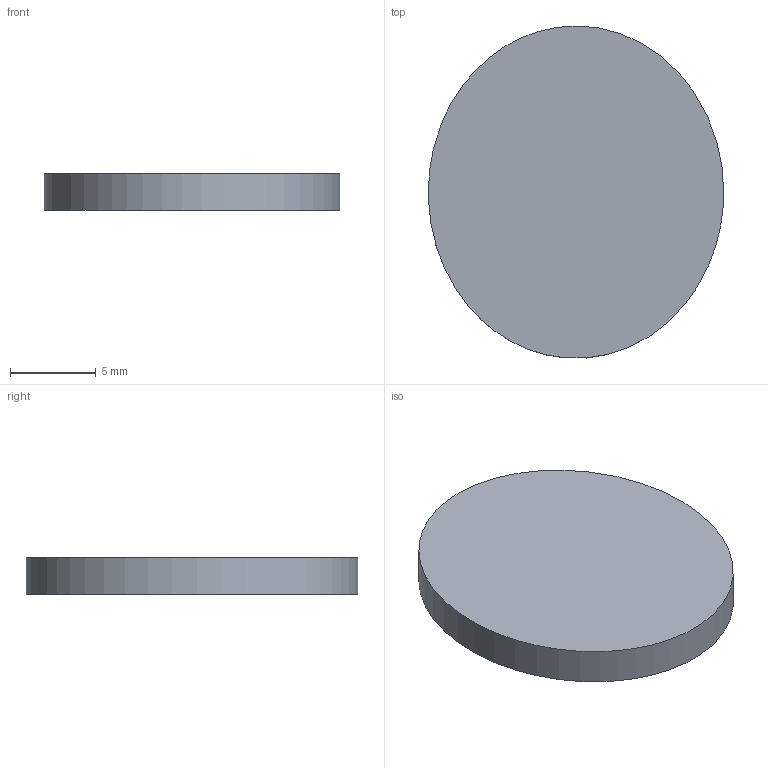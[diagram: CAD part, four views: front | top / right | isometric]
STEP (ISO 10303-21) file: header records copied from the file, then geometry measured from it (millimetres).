
FILE_DESCRIPTION(('FreeCAD Model'),'2;1');
FILE_NAME('Open CASCADE Shape Model','2026-11-20T08:25:35',('FreeCAD'),( 'FreeCAD'),'Open CASCADE STEP processor 7.8','FreeCAD','Unknown');
FILE_SCHEMA(('AUTOMOTIVE_DESIGN { 1 0 10303 214 1 1 1 1 }'));
Length unit declared in the file: millimetre
Products named in the file (1): Open CASCADE STEP translator 7.8 18
Bounding box: 17.2 x 19.32 x 2.15 mm (x, y, z)
Volume: 567.1 mm3; surface area: 646.7 mm2
Topology: 1 solids, 1 shells, 3 faces, 3 edges, 2 vertices
Faces by surface type: bspline 3
Entity records: 81 total; most frequent: CARTESIAN_POINT 41, ORIENTED_EDGE 6, ADVANCED_FACE 3, FACE_BOUND 3, EDGE_LOOP 3, EDGE_CURVE 3, DIRECTION 2, VERTEX_POINT 2
